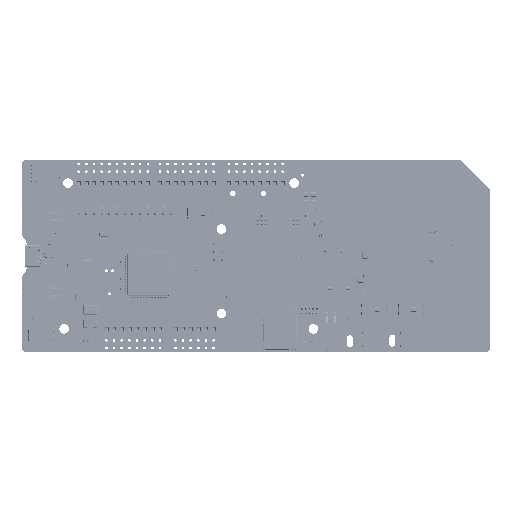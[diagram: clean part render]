
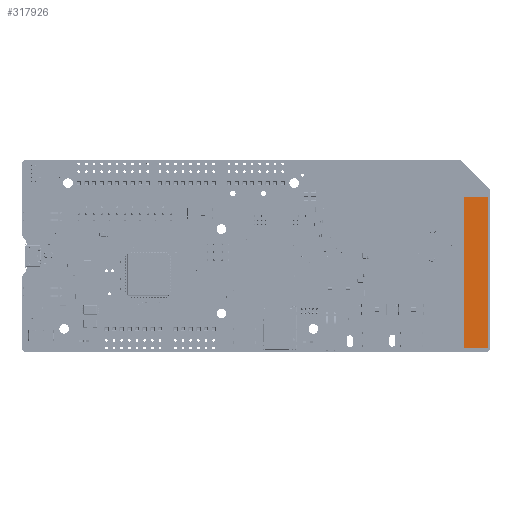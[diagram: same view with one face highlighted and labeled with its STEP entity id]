
A CAD part, top view. The second image highlights one B-rep face of the part: STEP entity #317926.
In plain terms, the highlighted planar face has unit normal (0, 0, 1).
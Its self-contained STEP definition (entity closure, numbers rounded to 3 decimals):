
#317797 = VERTEX_POINT('',#317798);
#317798 = CARTESIAN_POINT('',(4.,25.,3.2));
#317804 = EDGE_CURVE('',#317797,#317805,#317807,.T.);
#317805 = VERTEX_POINT('',#317806);
#317806 = CARTESIAN_POINT('',(-4.,25.,3.2));
#317807 = LINE('',#317808,#317809);
#317808 = CARTESIAN_POINT('',(4.,25.,3.2));
#317809 = VECTOR('',#317810,1.);
#317810 = DIRECTION('',(-1.,0.,0.));
#317835 = EDGE_CURVE('',#317805,#317836,#317838,.T.);
#317836 = VERTEX_POINT('',#317837);
#317837 = CARTESIAN_POINT('',(-4.,-25.,3.2));
#317838 = LINE('',#317839,#317840);
#317839 = CARTESIAN_POINT('',(-4.,25.,3.2));
#317840 = VECTOR('',#317841,1.);
#317841 = DIRECTION('',(0.,-1.,0.));
#317866 = EDGE_CURVE('',#317836,#317867,#317869,.T.);
#317867 = VERTEX_POINT('',#317868);
#317868 = CARTESIAN_POINT('',(4.,-25.,3.2));
#317869 = LINE('',#317870,#317871);
#317870 = CARTESIAN_POINT('',(-4.,-25.,3.2));
#317871 = VECTOR('',#317872,1.);
#317872 = DIRECTION('',(1.,0.,0.));
#317897 = EDGE_CURVE('',#317867,#317797,#317898,.T.);
#317898 = LINE('',#317899,#317900);
#317899 = CARTESIAN_POINT('',(4.,-25.,3.2));
#317900 = VECTOR('',#317901,1.);
#317901 = DIRECTION('',(0.,1.,0.));
#317926 = ADVANCED_FACE('',(#317927),#317933,.T.);
#317927 = FACE_BOUND('',#317928,.T.);
#317928 = EDGE_LOOP('',(#317929,#317930,#317931,#317932));
#317929 = ORIENTED_EDGE('',*,*,#317804,.T.);
#317930 = ORIENTED_EDGE('',*,*,#317835,.T.);
#317931 = ORIENTED_EDGE('',*,*,#317866,.T.);
#317932 = ORIENTED_EDGE('',*,*,#317897,.T.);
#317933 = PLANE('',#317934);
#317934 = AXIS2_PLACEMENT_3D('',#317935,#317936,#317937);
#317935 = CARTESIAN_POINT('',(0.,0.,
    3.2));
#317936 = DIRECTION('',(0.,0.,1.));
#317937 = DIRECTION('',(1.,0.,-0.));
